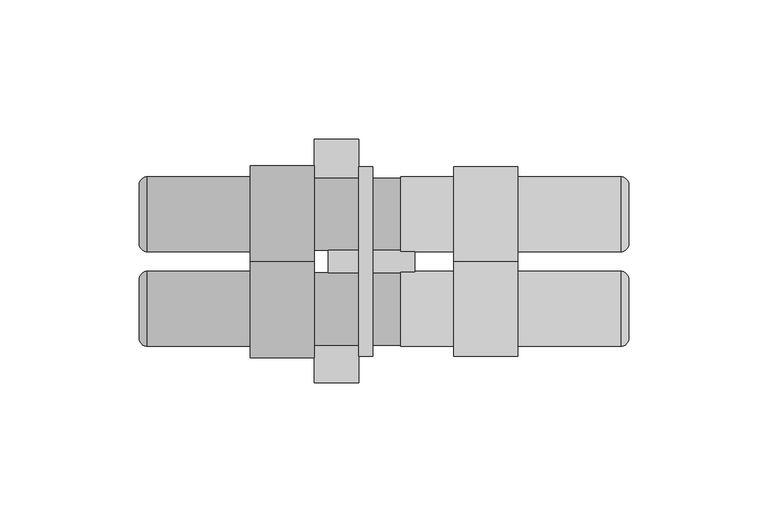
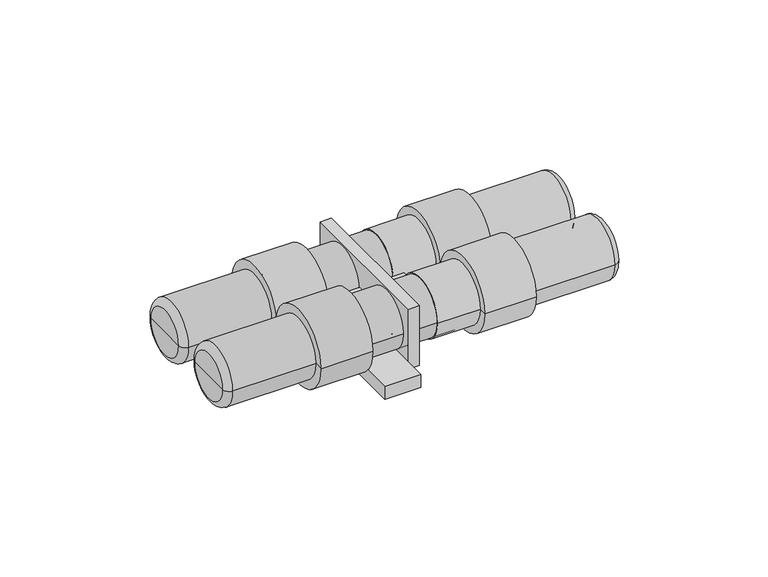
"""IFC4 building model written with IfcOpenShell, lengths in millimetres: cable carrier fitting geometry, DEVI EasyConnect EC-3 : DEVI EasyConnect EC-3_98300876."""

import ifcopenshell
import ifcopenshell.guid

model = None  # the IFC model being written
_history = None  # IfcOwnerHistory: only IFC2X3 demands one
_inside = {}  # id of a spatial element -> (the spatial element, [elements in it])
_under = {}  # id of a project, library or spatial element -> (it, [spatial elements below it])
_declared = {}  # id of a project -> (the project, [libraries it declares])
_typed = {}  # id of a type object -> (the type object, [elements of that type])
_made_of = {}  # id of a material, layer set ... -> (it, [elements and type objects made of it])


def new_model(schema):
    """Start an empty IFC model of exactly this schema.

    Asked for "IFC4X3", IfcOpenShell would pick the latest addendum, in which some entities
    have other attributes; the version numbers below select the first issue.
    IFC2X3 requires an IfcOwnerHistory on every rooted entity: one is made here for all.
    """
    global model, _history
    if schema == "IFC4X3":
        model = ifcopenshell.file(schema_version=(4, 3, 0, 0))
    else:
        model = ifcopenshell.file(schema=schema)
    _inside.clear()
    _under.clear()
    _declared.clear()
    _typed.clear()
    _made_of.clear()
    _history = None
    if model.schema == "IFC2X3":
        org = make("IfcOrganization", Name="unknown")
        user = make(
            "IfcPersonAndOrganization",
            ThePerson=make("IfcPerson", FamilyName="unknown"),
            TheOrganization=org,
        )
        app = make(
            "IfcApplication",
            ApplicationDeveloper=org,
            Version="unknown",
            ApplicationFullName="unknown",
            ApplicationIdentifier="unknown",
        )
        _history = make(
            "IfcOwnerHistory",
            OwningUser=user,
            OwningApplication=app,
            ChangeAction="ADDED",
            CreationDate=0,
        )
    return model


def make(cls, **values):
    """One entity of the class cls with the attributes given. An attribute that is None is left unset."""
    return model.create_entity(
        cls, **{name: value for name, value in values.items() if value is not None}
    )


def rooted(cls, **values):
    """An entity with a GlobalId (a new one), such as an element, a storey or a relation."""
    return make(cls, GlobalId=ifcopenshell.guid.new(), OwnerHistory=_history, **values)


def si_unit(unit_type, name, prefix=None):
    """IfcSIUnit, for example si_unit("LENGTHUNIT", "METRE", prefix="MILLI")."""
    return make("IfcSIUnit", UnitType=unit_type, Prefix=prefix, Name=name)


def assignment(units):
    """IfcUnitAssignment: the units of a project."""
    return None if units is None else make("IfcUnitAssignment", Units=units)


def point(xyz):
    """IfcCartesianPoint."""
    return None if xyz is None else make("IfcCartesianPoint", Coordinates=xyz)


def direction(xyz):
    """IfcDirection."""
    return None if xyz is None else make("IfcDirection", DirectionRatios=xyz)


def frame(location, z_axis=None, x_axis=None):
    """IfcAxis2Placement3D, a coordinate frame: its origin and axes. An axis left out is left unset."""
    return make(
        "IfcAxis2Placement3D",
        Location=point(location),
        Axis=direction(z_axis),
        RefDirection=direction(x_axis),
    )


def frame_2d(location, x_axis=None):
    """IfcAxis2Placement2D, a coordinate frame in the plane: its origin and x axis."""
    return make(
        "IfcAxis2Placement2D", Location=point(location), RefDirection=direction(x_axis)
    )


def origin():
    """The frame at (0, 0, 0) with its axes left unset."""
    return frame((0.0, 0.0, 0.0))


def place(relative_to, where):
    """IfcLocalPlacement: puts the frame where relative to a parent placement (None: the world)."""
    return make(
        "IfcLocalPlacement", PlacementRelTo=relative_to, RelativePlacement=where
    )


def context(
    kind, dimensions, precision=None, world=None, true_north=None, identifier=None
):
    """IfcGeometricRepresentationContext, for example the 3D "Model" context."""
    return make(
        "IfcGeometricRepresentationContext",
        ContextIdentifier=identifier,
        ContextType=kind,
        CoordinateSpaceDimension=dimensions,
        Precision=precision,
        WorldCoordinateSystem=world,
        TrueNorth=true_north,
    )


def project(units=None, contexts=None):
    """IfcProject with its units and contexts."""
    return rooted(
        "IfcProject",
        Name="project",
        RepresentationContexts=contexts,
        UnitsInContext=assignment(units),
    )


def spatial(cls, under=None, at=None, **own):
    """A site, building, storey or space (cls), placed at a placement, below another one or the project."""
    s = rooted(cls, ObjectPlacement=at, **own)
    if under is not None:
        _under.setdefault(under.id(), (under, []))[1].append(s)
    return s


def polyline(points):
    """IfcPolyline through the points."""
    return make("IfcPolyline", Points=[point(p) for p in points])


def circle_curve(where, radius):
    """IfcCircle in the frame where."""
    return make("IfcCircle", Position=where, Radius=radius)


def ellipse_curve(where, semi_axis1, semi_axis2):
    """IfcEllipse in the frame where."""
    return make(
        "IfcEllipse", Position=where, SemiAxis1=semi_axis1, SemiAxis2=semi_axis2
    )


def trimmed(basis, trim1, trim2, sense, master):
    """IfcTrimmedCurve: the piece of a basis curve between two trims."""
    return make(
        "IfcTrimmedCurve",
        BasisCurve=basis,
        Trim1=trim1,
        Trim2=trim2,
        SenseAgreement=sense,
        MasterRepresentation=master,
    )


def segment(curve, same_sense, transition):
    """IfcCompositeCurveSegment."""
    return make(
        "IfcCompositeCurveSegment",
        Transition=transition,
        SameSense=same_sense,
        ParentCurve=curve,
    )


def composite_curve(segments, self_intersect=None):
    """IfcCompositeCurve: segments joined end to end."""
    return make("IfcCompositeCurve", Segments=segments, SelfIntersect=self_intersect)


def outline(outer, holes=None, kind="AREA"):
    """IfcArbitraryClosedProfileDef: a profile drawn as a closed curve; with holes, ...WithVoids."""
    if holes is None:
        return make("IfcArbitraryClosedProfileDef", ProfileType=kind, OuterCurve=outer)
    return make(
        "IfcArbitraryProfileDefWithVoids",
        ProfileType=kind,
        OuterCurve=outer,
        InnerCurves=holes,
    )


def extrude(swept, where, along, depth):
    """IfcExtrudedAreaSolid: the profile swept, set in the frame where, extruded along a direction by depth."""
    return make(
        "IfcExtrudedAreaSolid",
        SweptArea=swept,
        Position=where,
        ExtrudedDirection=direction(along),
        Depth=depth,
    )


def shape(context_of_items, identifier, shape_type, items):
    """IfcShapeRepresentation: the items that make up one representation, for example the "Body"."""
    return make(
        "IfcShapeRepresentation",
        ContextOfItems=context_of_items,
        RepresentationIdentifier=identifier,
        RepresentationType=shape_type,
        Items=items,
    )


def source(mapping_origin, context_of_items, identifier, shape_type, items):
    """IfcRepresentationMap: a shape defined once, which mapped items show again and again."""
    return make(
        "IfcRepresentationMap",
        MappingOrigin=mapping_origin,
        MappedRepresentation=shape(context_of_items, identifier, shape_type, items),
    )


def transform(
    local_origin,
    x_axis=None,
    y_axis=None,
    z_axis=None,
    scale=None,
    scale2=None,
    scale3=None,
    uniform=True,
):
    """IfcCartesianTransformationOperator3D, or its non-uniform kind. x_axis, y_axis, z_axis: its Axis1, 2, 3."""
    if uniform:
        return make(
            "IfcCartesianTransformationOperator3D",
            Axis1=direction(x_axis),
            Axis2=direction(y_axis),
            LocalOrigin=point(local_origin),
            Scale=scale,
            Axis3=direction(z_axis),
        )
    return make(
        "IfcCartesianTransformationOperator3DnonUniform",
        Axis1=direction(x_axis),
        Axis2=direction(y_axis),
        LocalOrigin=point(local_origin),
        Scale=scale,
        Axis3=direction(z_axis),
        Scale2=scale2,
        Scale3=scale3,
    )


def mapped(mapping_source, mapping_target):
    """IfcMappedItem: shows the shape of a source again, moved by a transform."""
    return make(
        "IfcMappedItem", MappingSource=mapping_source, MappingTarget=mapping_target
    )


def made_of(thing, what):
    """Note that an element or type object is made of a material, layer set ...; save() writes the relation."""
    if what is not None:
        _made_of.setdefault(what.id(), (what, []))[1].append(thing)
    return thing


def element(
    cls,
    number,
    at=None,
    inside=None,
    cuts=None,
    type_object=None,
    material=None,
    context=None,
    identifier="Body",
    shape_type=None,
    held_by="IfcProductDefinitionShape",
    body=None,
    shapes=None,
    **own,
):
    """One element of the class cls, such as IfcWall. Its Tag is "e" and its number.

    at: its placement. inside: the storey or other place that contains it. cuts: it is an
    opening in that element (IfcRelVoidsElement). A single representation is given by context,
    identifier, shape_type and body (its items); several are given by shapes. held_by: the class
    of the entity that holds the representations. save() writes the other relations.
    """
    e = rooted(cls, Tag="e%d" % number, ObjectPlacement=at, **own)
    if body is not None:
        shapes = [shape(context, identifier, shape_type, body)]
    if shapes is not None:
        e.Representation = make(held_by, Representations=shapes)
    if inside is not None:
        _inside.setdefault(inside.id(), (inside, []))[1].append(e)
    if cuts is not None:
        rooted(
            "IfcRelVoidsElement", RelatingBuildingElement=cuts, RelatedOpeningElement=e
        )
    if type_object is not None:
        _typed.setdefault(type_object.id(), (type_object, []))[1].append(e)
    return made_of(e, material)


def aggregate(whole, parts):
    """IfcRelAggregates: a whole, such as a stair, and the parts it consists of."""
    return rooted("IfcRelAggregates", RelatingObject=whole, RelatedObjects=parts)


def save(model, path):
    """Write the relations noted so far, then the file.

    IfcRelAggregates (storeys below a building ...), IfcRelContainedInSpatialStructure (elements
    in a storey), IfcRelDefinesByType, IfcRelAssociatesMaterial and IfcRelDeclares: one each for
    every whole, place, type object, material and project.
    """
    for whole, parts in _under.values():
        aggregate(whole, parts)
    for where, things in _inside.values():
        rooted(
            "IfcRelContainedInSpatialStructure",
            RelatedElements=things,
            RelatingStructure=where,
        )
    for kind, things in _typed.values():
        rooted("IfcRelDefinesByType", RelatedObjects=things, RelatingType=kind)
    for what, things in _made_of.values():
        rooted("IfcRelAssociatesMaterial", RelatedObjects=things, RelatingMaterial=what)
    for by, libraries in _declared.values():
        rooted("IfcRelDeclares", RelatingContext=by, RelatedDefinitions=libraries)
    model.write(path)


def plane_surface(at):
    """IfcPlane: the flat surface through the origin of the frame at, square to its z axis."""
    return make("IfcPlane", Position=at)


def cylinder_surface(at, radius):
    """IfcCylindricalSurface: all points at the distance radius from the z axis of the frame at."""
    return make("IfcCylindricalSurface", Position=at, Radius=radius)


def revolved_surface(curve, axis_point, axis_direction):
    """IfcSurfaceOfRevolution: the curve turned about the line through axis_point along axis_direction."""
    return make(
        "IfcSurfaceOfRevolution",
        SweptCurve=make("IfcArbitraryOpenProfileDef", ProfileType="CURVE", Curve=curve),
        AxisPosition=make("IfcAxis1Placement", Location=point(axis_point), Axis=direction(axis_direction)),
    )


def advanced_brep(points, edges, surfaces, faces):
    """IfcAdvancedBrep: a solid bounded by faces that lie on surfaces and meet in shared edges.

    An edge is (start, end): straight between two places in points (the first is 0);
    or (start, end, curve); or (start, end, curve, False) where it runs against its curve.
    A face is (place in surfaces, loops), or (place, loops, False) where it looks against
    its surface's normal. A loop lists edges by number (the first is 1), with a minus sign
    where the edge is run from its end to its start. The first loop is the outer one.
    """
    corners = [point(p) for p in points]
    vertices = [make("IfcVertexPoint", VertexGeometry=c) for c in corners]
    made = []
    for start, end, *more in edges:
        made.append(
            make(
                "IfcEdgeCurve",
                EdgeStart=vertices[start],
                EdgeEnd=vertices[end],
                EdgeGeometry=more[0] if more else make("IfcPolyline", Points=[corners[start], corners[end]]),
                SameSense=more[1] if len(more) > 1 else True,
            )
        )
    hull = []
    for where, loops, *sense in faces:
        bounds = []
        for j, loop in enumerate(loops):
            ring = [make("IfcOrientedEdge", EdgeElement=made[abs(k) - 1], Orientation=k > 0) for k in loop]
            bounds.append(
                make(
                    "IfcFaceOuterBound" if j == 0 else "IfcFaceBound",
                    Bound=make("IfcEdgeLoop", EdgeList=ring),
                    Orientation=True,
                )
            )
        hull.append(make("IfcAdvancedFace", Bounds=bounds, FaceSurface=surfaces[where], SameSense=sense[0] if sense else True))
    return make("IfcAdvancedBrep", Outer=make("IfcClosedShell", CfsFaces=hull))


def cable_carrier_fitting_f990690f(model_context):
    return source(origin(), model_context, "Body", "SolidModel", [
        advanced_brep(
        [(63.0, -13.0, -0.0348156), (63.0, 13.0, -0.0348156), (63.0, 7.2677823, -10.8134677), (63.0, 27.0, -10.8134677), (63.0, 27.0, -16.9651844), (63.0, 0.0, -16.9651844), (63.0, 0.0, -13.0348156), (104.0, 13.0, -0.0348156), (104.0, -13.0, -0.0348156), (79.0, 0.0, -13.0348156), (79.0, 7.2677823, -10.8134677), (79.0, 27.0, -10.8134677), (79.0, 27.0, -16.9651844), (79.0, 0.0, -16.9651844)],
        [
            (0, 1, circle_curve(frame((63.0, 0.0, -0.0348156), z_axis=(-1.0, 0.0, 0.0), x_axis=(0.0, -1.0, 0.0)), 13.0)),
            (1, 2, circle_curve(frame((63.0, 0.0, -0.0348156), z_axis=(-1.0, 0.0, 0.0), x_axis=(0.0, -1.0, 0.0)), 13.0)),
            (2, 3),
            (3, 4),
            (4, 5),
            (5, 6),
            (6, 0, circle_curve(frame((63.0, 0.0, -0.0348156), z_axis=(-1.0, 0.0, 0.0), x_axis=(0.0, -1.0, 0.0)), 13.0)),
            (7, 8, circle_curve(frame((104.0, 0.0, -0.0348156), z_axis=(1.0, 0.0, 0.0), x_axis=(0.0, -1.0, 0.0)), 13.0)),
            (8, 7, circle_curve(frame((104.0, 0.0, -0.0348156), z_axis=(1.0, 0.0, 0.0), x_axis=(0.0, -1.0, 0.0)), 13.0)),
            (8, 0),
            (6, 9),
            (9, 10, circle_curve(frame((79.0, 0.0, -0.0348156), z_axis=(1.0, 0.0, 0.0), x_axis=(0.0, -1.0, 0.0)), 13.0)),
            (10, 2),
            (1, 7),
            (11, 3),
            (10, 11),
            (4, 12),
            (12, 13),
            (13, 5),
            (13, 9),
            (12, 11),
        ],
        [
            plane_surface(frame((63.0, -13.0, -0.0348156), z_axis=(-1.0, 0.0, 0.0), x_axis=(0.0, 0.0, 1.0))),
            plane_surface(frame((104.0, -13.0, -0.0348156), z_axis=(1.0, 0.0, 0.0), x_axis=(0.0, 0.0, -1.0))),
            cylinder_surface(frame((104.0, 0.0, -0.0348156), z_axis=(-1.0, 0.0, 0.0), x_axis=(0.0, -1.0, 0.0)), 13.0),
            plane_surface(frame((63.0, -287.6301247, -10.8134677), z_axis=(0.0, 0.0, 1.0), x_axis=(0.0, -1.0, 0.0))),
            plane_surface(frame((63.0, -287.6301247, -16.9651844), z_axis=(0.0, 0.0, -1.0), x_axis=(0.0, 1.0, 0.0))),
            plane_surface(frame((63.0, 0.0, -10.8134677), z_axis=(0.0, -1.0, 0.0), x_axis=(0.0, 0.0, -1.0))),
            plane_surface(frame((79.0, 0.0, -10.8134677), z_axis=(1.0, 0.0, 0.0), x_axis=(0.0, 0.0, -1.0))),
            plane_surface(frame((79.0, 27.0, -10.8134677), z_axis=(0.0, 1.0, 0.0), x_axis=(0.0, 0.0, -1.0))),
        ],
        [
            (0, [[1, 2, 3, 4, 5, 6, 7]]),
            (1, [[8, 9]]),
            (2, [[-9, 10, -7, 11, 12, 13, -2, 14]]),
            (2, [[-1, -10, -8, -14]]),
            (3, [[15, -3, -13, 16]]),
            (4, [[17, 18, 19, -5]]),
            (5, [[-19, 20, -11, -6]]),
            (6, [[-18, 21, -16, -12, -20]]),
            (7, [[-15, -21, -17, -4]]),
        ],
    ),
        advanced_brep(
        [(63.0, -47.0, -0.0348156), (63.0, -21.0, -0.0348156), (63.0, -34.0, -13.0348156), (63.0, -34.0, -16.9651844), (63.0, -60.5, -16.9651844), (63.0, -60.5, -10.8134677), (63.0, -41.2677823, -10.8134677), (104.0, -21.0, -0.0348156), (104.0, -47.0, -0.0348156), (79.0, -41.2677823, -10.8134677), (79.0, -34.0, -13.0348156), (79.0, -60.5, -10.8134677), (79.0, -34.0, -16.9651844), (79.0, -60.5, -16.9651844)],
        [
            (0, 1, circle_curve(frame((63.0, -34.0, -0.0348156), z_axis=(-1.0, 0.0, 0.0), x_axis=(0.0, -1.0, 0.0)), 13.0)),
            (1, 2, circle_curve(frame((63.0, -34.0, -0.0348156), z_axis=(-1.0, 0.0, 0.0), x_axis=(0.0, -1.0, 0.0)), 13.0)),
            (2, 3),
            (3, 4),
            (4, 5),
            (5, 6),
            (6, 0, circle_curve(frame((63.0, -34.0, -0.0348156), z_axis=(-1.0, 0.0, 0.0), x_axis=(0.0, -1.0, 0.0)), 13.0)),
            (7, 8, circle_curve(frame((104.0, -34.0, -0.0348156), z_axis=(1.0, 0.0, 0.0), x_axis=(0.0, -1.0, 0.0)), 13.0)),
            (8, 7, circle_curve(frame((104.0, -34.0, -0.0348156), z_axis=(1.0, 0.0, 0.0), x_axis=(0.0, -1.0, 0.0)), 13.0)),
            (8, 0),
            (6, 9),
            (9, 10, circle_curve(frame((79.0, -34.0, -0.0348156), z_axis=(1.0, 0.0, 0.0), x_axis=(0.0, -1.0, 0.0)), 13.0)),
            (10, 2),
            (1, 7),
            (5, 11),
            (11, 9),
            (3, 12),
            (12, 13),
            (13, 4),
            (13, 11),
            (12, 10),
        ],
        [
            plane_surface(frame((63.0, -13.0, -0.0348156), z_axis=(-1.0, 0.0, 0.0), x_axis=(0.0, 0.0, 1.0))),
            plane_surface(frame((104.0, -13.0, -0.0348156), z_axis=(1.0, 0.0, 0.0), x_axis=(0.0, 0.0, -1.0))),
            cylinder_surface(frame((119.0, -34.0, -0.0348156), z_axis=(-1.0, 0.0, 0.0), x_axis=(0.0, -1.0, 0.0)), 13.0),
            plane_surface(frame((63.0, -287.6301247, -10.8134677), z_axis=(0.0, 0.0, 1.0), x_axis=(0.0, -1.0, 0.0))),
            plane_surface(frame((63.0, -287.6301247, -16.9651844), z_axis=(0.0, 0.0, -1.0), x_axis=(0.0, 1.0, 0.0))),
            plane_surface(frame((63.0, -60.5, -10.8134677), z_axis=(0.0, -1.0, 0.0), x_axis=(0.0, 0.0, -1.0))),
            plane_surface(frame((79.0, -60.5, -10.8134677), z_axis=(1.0, 0.0, 0.0), x_axis=(0.0, 0.0, -1.0))),
            plane_surface(frame((79.0, -34.0, -10.8134677), z_axis=(0.0, 1.0, 0.0), x_axis=(0.0, 0.0, -1.0))),
        ],
        [
            (0, [[1, 2, 3, 4, 5, 6, 7]]),
            (1, [[8, 9]]),
            (2, [[-9, 10, -7, 11, 12, 13, -2, 14]]),
            (2, [[-1, -10, -8, -14]]),
            (3, [[15, 16, -11, -6]]),
            (4, [[17, 18, 19, -4]]),
            (5, [[-15, -5, -19, 20]]),
            (6, [[-18, 21, -12, -16, -20]]),
            (7, [[-17, -3, -13, -21]]),
        ],
    ),
        extrude(outline(polyline([(99.0, -34.0), (68.0, -34.0), (68.0, 0.0), (99.0, 0.0), (99.0, -34.0)])), frame((0.0, 0.0, -1.4303687), z_axis=(0.0, 0.0, 1.0), x_axis=(1.0, 0.0, 0.0)), (0.0, 0.0, 1.0), 2.8607374),
        extrude(outline(composite_curve([segment(trimmed(circle_curve(frame_2d((-34.0, -0.0348156)), 9.0), [point((-25.0, -0.0348156))], [point((-43.0, -0.0348156))], False, "CARTESIAN"), True, "CONTINUOUS"), segment(trimmed(circle_curve(frame_2d((-34.0, -0.0348156)), 9.0), [point((-43.0, -0.0348156))], [point((-25.0, -0.0348156))], False, "CARTESIAN"), True, "CONTINUOUS")], self_intersect=False)), frame((104.0, 0.0, 0.0), z_axis=(1.0, 0.0, 0.0), x_axis=(0.0, 1.0, 0.0)), (0.0, 0.0, 1.0), 15.0),
        extrude(outline(polyline([(79.0, -51.0), (79.0, 17.0), (84.0, 17.0), (84.0, -51.0), (79.0, -51.0)])), frame((0.0, 0.0, -14.0348156), z_axis=(0.0, 0.0, 1.0), x_axis=(1.0, 0.0, 0.0)), (0.0, 0.0, 1.0), 28.0696313),
        advanced_brep(
        [(94.0, -20.5, 0.0), (94.0, -47.5, 0.0), (94.0, -34.0, 0.0), (113.0, -20.5, 0.0), (113.0, -47.5, 0.0), (113.0, -17.0, 0.0), (113.0, -51.0, 0.0), (136.0, -17.0, 0.0), (136.0, -51.0, 0.0), (136.0, -20.5, 0.0), (136.0, -47.5, 0.0), (173.0, -20.5, 0.0), (173.0, -47.5, 0.0), (176.0, -34.0, 0.0), (176.0, -44.5, 0.0), (176.0, -23.5, 0.0)],
        [
            (0, 1, circle_curve(frame((94.0, -34.0, 0.0), z_axis=(-1.0, 0.0, 0.0), x_axis=(0.0, -1.0, 0.0)), 13.5)),
            (1, 2),
            (2, 0),
            (1, 0, circle_curve(frame((94.0, -34.0, 0.0), z_axis=(-1.0, 0.0, 0.0), x_axis=(0.0, -1.0, 0.0)), 13.5)),
            (3, 4, circle_curve(frame((113.0, -34.0, 0.0), z_axis=(-1.0, 0.0, 0.0), x_axis=(0.0, -1.0, 0.0)), 13.5)),
            (4, 1),
            (0, 3),
            (4, 3, circle_curve(frame((113.0, -34.0, 0.0), z_axis=(-1.0, 0.0, 0.0), x_axis=(0.0, -1.0, 0.0)), 13.5)),
            (5, 6, circle_curve(frame((113.0, -34.0, 0.0), z_axis=(-1.0, 0.0, 0.0), x_axis=(0.0, -1.0, 0.0)), 17.0)),
            (6, 4),
            (3, 5),
            (6, 5, circle_curve(frame((113.0, -34.0, 0.0), z_axis=(-1.0, 0.0, 0.0), x_axis=(0.0, -1.0, 0.0)), 17.0)),
            (7, 8, circle_curve(frame((136.0, -34.0, 0.0), z_axis=(-1.0, 0.0, 0.0), x_axis=(0.0, -1.0, 0.0)), 17.0)),
            (8, 6),
            (5, 7),
            (8, 7, circle_curve(frame((136.0, -34.0, 0.0), z_axis=(-1.0, 0.0, 0.0), x_axis=(0.0, -1.0, 0.0)), 17.0)),
            (9, 10, circle_curve(frame((136.0, -34.0, 0.0), z_axis=(-1.0, 0.0, 0.0), x_axis=(0.0, -1.0, 0.0)), 13.5)),
            (10, 8),
            (7, 9),
            (10, 9, circle_curve(frame((136.0, -34.0, 0.0), z_axis=(-1.0, 0.0, 0.0), x_axis=(0.0, -1.0, 0.0)), 13.5)),
            (11, 12, circle_curve(frame((173.0, -34.0, 0.0), z_axis=(-1.0, 0.0, 0.0), x_axis=(0.0, -1.0, 0.0)), 13.5)),
            (12, 10),
            (9, 11),
            (12, 11, circle_curve(frame((173.0, -34.0, 0.0), z_axis=(-1.0, 0.0, 0.0), x_axis=(0.0, -1.0, 0.0)), 13.5)),
            (13, 14),
            (14, 15, circle_curve(frame((176.0, -34.0, 0.0), z_axis=(1.0, 0.0, 0.0), x_axis=(0.0, -1.0, 0.0)), 10.5)),
            (15, 13),
            (15, 14, circle_curve(frame((176.0, -34.0, 0.0), z_axis=(1.0, 0.0, 0.0), x_axis=(0.0, -1.0, 0.0)), 10.5)),
            (14, 12, circle_curve(frame((173.0, -44.5, 0.0), z_axis=(0.0, 0.0, -1.0), x_axis=(-1.0, 0.0, 0.0)), 3.0)),
            (11, 15, circle_curve(frame((173.0, -23.5, 0.0), z_axis=(0.0, 0.0, -1.0), x_axis=(-1.0, 0.0, 0.0)), 3.0)),
        ],
        [
            plane_surface(frame((94.0, -34.0, 0.0), z_axis=(-1.0, 0.0, 0.0), x_axis=(0.0, -1.0, 0.0))),
            cylinder_surface(frame((201.0, -34.0, 0.0), z_axis=(1.0, 0.0, 0.0), x_axis=(0.0, -1.0, 0.0)), 13.5),
            plane_surface(frame((113.0, -34.0, 0.0), z_axis=(-1.0, 0.0, 0.0), x_axis=(0.0, -1.0, 0.0))),
            cylinder_surface(frame((201.0, -34.0, 0.0), z_axis=(1.0, 0.0, 0.0), x_axis=(0.0, -1.0, 0.0)), 17.0),
            plane_surface(frame((136.0, -34.0, 0.0), z_axis=(1.0, 0.0, 0.0), x_axis=(0.0, -1.0, 0.0))),
            plane_surface(frame((176.0, -34.0, 0.0), z_axis=(1.0, 0.0, 0.0), x_axis=(0.0, -1.0, 0.0))),
            revolved_surface(trimmed(ellipse_curve(frame((173.0, -44.5, 0.0), z_axis=(0.0, 0.0, 1.0), x_axis=(-1.0, 0.0, 0.0)), 3.0, 3.0), [point((173.0, -47.5, 0.0))], [point((176.0, -44.5, 0.0))], True, "CARTESIAN"), (201.0, -34.0, 0.0), (1.0, 0.0, 0.0)),
        ],
        [
            (0, [[1, 2, 3]]),
            (0, [[4, -3, -2]]),
            (1, [[5, 6, -1, 7]]),
            (1, [[8, -7, -4, -6]]),
            (2, [[9, 10, -5, 11]]),
            (2, [[12, -11, -8, -10]]),
            (3, [[13, 14, -9, 15]]),
            (3, [[16, -15, -12, -14]]),
            (4, [[17, 18, -13, 19]]),
            (4, [[20, -19, -16, -18]]),
            (1, [[21, 22, -17, 23]]),
            (1, [[24, -23, -20, -22]]),
            (5, [[25, 26, 27]]),
            (5, [[-27, 28, -25]]),
            (6, [[-26, 29, -21, 30]]),
            (6, [[-28, -30, -24, -29]]),
        ],
    ),
        advanced_brep(
        [(79.0, -41.0, 0.0), (79.0, -27.0, 0.0), (79.0, -34.0, 0.0), (63.0, -41.0, 0.0), (63.0, -27.0, 0.0), (63.0, -51.5, 0.0), (63.0, -16.5, 0.0), (40.0, -51.5, 0.0), (40.0, -16.5, 0.0), (40.0, -47.5, 0.0), (40.0, -20.5, 0.0), (3.0, -47.5, 0.0), (3.0, -20.5, 0.0), (0.0, -34.0, 0.0), (0.0, -23.5, 0.0), (0.0, -44.5, 0.0)],
        [
            (0, 1, circle_curve(frame((79.0, -34.0, 0.0), z_axis=(1.0, 0.0, 0.0), x_axis=(0.0, 1.0, 0.0)), 7.0)),
            (1, 2),
            (2, 0),
            (1, 0, circle_curve(frame((79.0, -34.0, 0.0), z_axis=(1.0, 0.0, 0.0), x_axis=(0.0, 1.0, 0.0)), 7.0)),
            (3, 4, circle_curve(frame((63.0, -34.0, 0.0), z_axis=(1.0, 0.0, 0.0), x_axis=(0.0, 1.0, 0.0)), 7.0)),
            (4, 1),
            (0, 3),
            (4, 3, circle_curve(frame((63.0, -34.0, 0.0), z_axis=(1.0, 0.0, 0.0), x_axis=(0.0, 1.0, 0.0)), 7.0)),
            (5, 6, circle_curve(frame((63.0, -34.0, 0.0), z_axis=(1.0, 0.0, 0.0), x_axis=(0.0, 1.0, 0.0)), 17.5)),
            (6, 4),
            (3, 5),
            (6, 5, circle_curve(frame((63.0, -34.0, 0.0), z_axis=(1.0, 0.0, 0.0), x_axis=(0.0, 1.0, 0.0)), 17.5)),
            (7, 8, circle_curve(frame((40.0, -34.0, 0.0), z_axis=(1.0, 0.0, 0.0), x_axis=(0.0, 1.0, 0.0)), 17.5)),
            (8, 6),
            (5, 7),
            (8, 7, circle_curve(frame((40.0, -34.0, 0.0), z_axis=(1.0, 0.0, 0.0), x_axis=(0.0, 1.0, 0.0)), 17.5)),
            (9, 10, circle_curve(frame((40.0, -34.0, 0.0), z_axis=(1.0, 0.0, 0.0), x_axis=(0.0, 1.0, 0.0)), 13.5)),
            (10, 8),
            (7, 9),
            (10, 9, circle_curve(frame((40.0, -34.0, 0.0), z_axis=(1.0, 0.0, 0.0), x_axis=(0.0, 1.0, 0.0)), 13.5)),
            (11, 12, circle_curve(frame((3.0, -34.0, 0.0), z_axis=(1.0, 0.0, 0.0), x_axis=(0.0, 1.0, 0.0)), 13.5)),
            (12, 10),
            (9, 11),
            (12, 11, circle_curve(frame((3.0, -34.0, 0.0), z_axis=(1.0, 0.0, 0.0), x_axis=(0.0, 1.0, 0.0)), 13.5)),
            (13, 14),
            (14, 15, circle_curve(frame((0.0, -34.0, 0.0), z_axis=(-1.0, 0.0, 0.0), x_axis=(0.0, 1.0, 0.0)), 10.5)),
            (15, 13),
            (15, 14, circle_curve(frame((0.0, -34.0, 0.0), z_axis=(-1.0, 0.0, 0.0), x_axis=(0.0, 1.0, 0.0)), 10.5)),
            (14, 12, circle_curve(frame((3.0, -23.5, 0.0), z_axis=(0.0, 0.0, -1.0), x_axis=(1.0, 0.0, 0.0)), 3.0)),
            (11, 15, circle_curve(frame((3.0, -44.5, 0.0), z_axis=(0.0, 0.0, -1.0), x_axis=(1.0, 0.0, 0.0)), 3.0)),
        ],
        [
            plane_surface(frame((79.0, -34.0, 0.0), z_axis=(1.0, 0.0, 0.0), x_axis=(0.0, 1.0, 0.0))),
            cylinder_surface(frame((-25.0, -34.0, 0.0), z_axis=(-1.0, 0.0, 0.0), x_axis=(0.0, 1.0, 0.0)), 7.0),
            plane_surface(frame((63.0, -34.0, 0.0), z_axis=(1.0, 0.0, 0.0), x_axis=(0.0, 1.0, 0.0))),
            cylinder_surface(frame((-25.0, -34.0, 0.0), z_axis=(-1.0, 0.0, 0.0), x_axis=(0.0, 1.0, 0.0)), 17.5),
            plane_surface(frame((40.0, -34.0, 0.0), z_axis=(-1.0, 0.0, 0.0), x_axis=(0.0, 1.0, 0.0))),
            cylinder_surface(frame((-25.0, -34.0, 0.0), z_axis=(-1.0, 0.0, 0.0), x_axis=(0.0, 1.0, 0.0)), 13.5),
            plane_surface(frame((0.0, -34.0, 0.0), z_axis=(-1.0, 0.0, 0.0), x_axis=(0.0, 1.0, 0.0))),
            revolved_surface(trimmed(ellipse_curve(frame((3.0, -23.5, 0.0), z_axis=(0.0, 0.0, 1.0), x_axis=(1.0, 0.0, 0.0)), 3.0, 3.0), [point((3.0, -20.5, 0.0))], [point((0.0, -23.5, 0.0))], True, "CARTESIAN"), (-25.0, -34.0, 0.0), (-1.0, 0.0, 0.0)),
        ],
        [
            (0, [[1, 2, 3]]),
            (0, [[4, -3, -2]]),
            (1, [[5, 6, -1, 7]]),
            (1, [[8, -7, -4, -6]]),
            (2, [[9, 10, -5, 11]]),
            (2, [[12, -11, -8, -10]]),
            (3, [[13, 14, -9, 15]]),
            (3, [[16, -15, -12, -14]]),
            (4, [[17, 18, -13, 19]]),
            (4, [[20, -19, -16, -18]]),
            (5, [[21, 22, -17, 23]]),
            (5, [[24, -23, -20, -22]]),
            (6, [[25, 26, 27]]),
            (6, [[-27, 28, -25]]),
            (7, [[-26, 29, -21, 30]]),
            (7, [[-28, -30, -24, -29]]),
        ],
    ),
        advanced_brep(
        [(94.0, 13.5, 0.0), (94.0, -13.5, 0.0), (94.0, 0.0, 0.0), (113.0, 13.5, 0.0), (113.0, -13.5, 0.0), (113.0, 17.0, 0.0), (113.0, -17.0, 0.0), (136.0, 17.0, 0.0), (136.0, -17.0, 0.0), (136.0, 13.5, 0.0), (136.0, -13.5, 0.0), (173.0, 13.5, 0.0), (173.0, -13.5, 0.0), (176.0, 0.0, 0.0), (176.0, -10.5, 0.0), (176.0, 10.5, 0.0)],
        [
            (0, 1, circle_curve(frame((94.0, 0.0, 0.0), z_axis=(-1.0, 0.0, 0.0), x_axis=(0.0, -1.0, 0.0)), 13.5)),
            (1, 2),
            (2, 0),
            (1, 0, circle_curve(frame((94.0, 0.0, 0.0), z_axis=(-1.0, 0.0, 0.0), x_axis=(0.0, -1.0, 0.0)), 13.5)),
            (3, 4, circle_curve(frame((113.0, 0.0, 0.0), z_axis=(-1.0, 0.0, 0.0), x_axis=(0.0, -1.0, 0.0)), 13.5)),
            (4, 1),
            (0, 3),
            (4, 3, circle_curve(frame((113.0, 0.0, 0.0), z_axis=(-1.0, 0.0, 0.0), x_axis=(0.0, -1.0, 0.0)), 13.5)),
            (5, 6, circle_curve(frame((113.0, 0.0, 0.0), z_axis=(-1.0, 0.0, 0.0), x_axis=(0.0, -1.0, 0.0)), 17.0)),
            (6, 4),
            (3, 5),
            (6, 5, circle_curve(frame((113.0, 0.0, 0.0), z_axis=(-1.0, 0.0, 0.0), x_axis=(0.0, -1.0, 0.0)), 17.0)),
            (7, 8, circle_curve(frame((136.0, 0.0, 0.0), z_axis=(-1.0, 0.0, 0.0), x_axis=(0.0, -1.0, 0.0)), 17.0)),
            (8, 6),
            (5, 7),
            (8, 7, circle_curve(frame((136.0, 0.0, 0.0), z_axis=(-1.0, 0.0, 0.0), x_axis=(0.0, -1.0, 0.0)), 17.0)),
            (9, 10, circle_curve(frame((136.0, 0.0, 0.0), z_axis=(-1.0, 0.0, 0.0), x_axis=(0.0, -1.0, 0.0)), 13.5)),
            (10, 8),
            (7, 9),
            (10, 9, circle_curve(frame((136.0, 0.0, 0.0), z_axis=(-1.0, 0.0, 0.0), x_axis=(0.0, -1.0, 0.0)), 13.5)),
            (11, 12, circle_curve(frame((173.0, 0.0, 0.0), z_axis=(-1.0, 0.0, 0.0), x_axis=(0.0, -1.0, 0.0)), 13.5)),
            (12, 10),
            (9, 11),
            (12, 11, circle_curve(frame((173.0, 0.0, 0.0), z_axis=(-1.0, 0.0, 0.0), x_axis=(0.0, -1.0, 0.0)), 13.5)),
            (13, 14),
            (14, 15, circle_curve(frame((176.0, 0.0, 0.0), z_axis=(1.0, 0.0, 0.0), x_axis=(0.0, -1.0, 0.0)), 10.5)),
            (15, 13),
            (15, 14, circle_curve(frame((176.0, 0.0, 0.0), z_axis=(1.0, 0.0, 0.0), x_axis=(0.0, -1.0, 0.0)), 10.5)),
            (14, 12, circle_curve(frame((173.0, -10.5, 0.0), z_axis=(0.0, 0.0, -1.0), x_axis=(-1.0, 0.0, 0.0)), 3.0)),
            (11, 15, circle_curve(frame((173.0, 10.5, 0.0), z_axis=(0.0, 0.0, -1.0), x_axis=(-1.0, 0.0, 0.0)), 3.0)),
        ],
        [
            plane_surface(frame((94.0, 0.0, 0.0), z_axis=(-1.0, 0.0, 0.0), x_axis=(0.0, -1.0, 0.0))),
            cylinder_surface(frame((201.0, 0.0, 0.0), z_axis=(1.0, 0.0, 0.0), x_axis=(0.0, -1.0, 0.0)), 13.5),
            plane_surface(frame((113.0, 0.0, 0.0), z_axis=(-1.0, 0.0, 0.0), x_axis=(0.0, -1.0, 0.0))),
            cylinder_surface(frame((201.0, 0.0, 0.0), z_axis=(1.0, 0.0, 0.0), x_axis=(0.0, -1.0, 0.0)), 17.0),
            plane_surface(frame((136.0, 0.0, 0.0), z_axis=(1.0, 0.0, 0.0), x_axis=(0.0, -1.0, 0.0))),
            plane_surface(frame((176.0, 0.0, 0.0), z_axis=(1.0, 0.0, 0.0), x_axis=(0.0, -1.0, 0.0))),
            revolved_surface(trimmed(ellipse_curve(frame((173.0, -10.5, 0.0), z_axis=(0.0, 0.0, 1.0), x_axis=(-1.0, 0.0, 0.0)), 3.0, 3.0), [point((173.0, -13.5, 0.0))], [point((176.0, -10.5, 0.0))], True, "CARTESIAN"), (201.0, 0.0, 0.0), (1.0, 0.0, 0.0)),
        ],
        [
            (0, [[1, 2, 3]]),
            (0, [[4, -3, -2]]),
            (1, [[5, 6, -1, 7]]),
            (1, [[8, -7, -4, -6]]),
            (2, [[9, 10, -5, 11]]),
            (2, [[12, -11, -8, -10]]),
            (3, [[13, 14, -9, 15]]),
            (3, [[16, -15, -12, -14]]),
            (4, [[17, 18, -13, 19]]),
            (4, [[20, -19, -16, -18]]),
            (1, [[21, 22, -17, 23]]),
            (1, [[24, -23, -20, -22]]),
            (5, [[25, 26, 27]]),
            (5, [[-27, 28, -25]]),
            (6, [[-26, 29, -21, 30]]),
            (6, [[-28, -30, -24, -29]]),
        ],
    ),
        advanced_brep(
        [(79.0, -7.0, 0.0), (79.0, 7.0, 0.0), (79.0, 0.0, 0.0), (63.0, -7.0, 0.0), (63.0, 7.0, 0.0), (63.0, -17.5, 0.0), (63.0, 17.5, 0.0), (40.0, -17.5, 0.0), (40.0, 17.5, 0.0), (40.0, -13.5, 0.0), (40.0, 13.5, 0.0), (3.0, -13.5, 0.0), (3.0, 13.5, 0.0), (0.0, 0.0, 0.0), (0.0, 10.5, 0.0), (0.0, -10.5, 0.0)],
        [
            (0, 1, circle_curve(frame((79.0, 0.0, 0.0), z_axis=(1.0, 0.0, 0.0), x_axis=(0.0, 1.0, 0.0)), 7.0)),
            (1, 2),
            (2, 0),
            (1, 0, circle_curve(frame((79.0, 0.0, 0.0), z_axis=(1.0, 0.0, 0.0), x_axis=(0.0, 1.0, 0.0)), 7.0)),
            (3, 4, circle_curve(frame((63.0, 0.0, 0.0), z_axis=(1.0, 0.0, 0.0), x_axis=(0.0, 1.0, 0.0)), 7.0)),
            (4, 1),
            (0, 3),
            (4, 3, circle_curve(frame((63.0, 0.0, 0.0), z_axis=(1.0, 0.0, 0.0), x_axis=(0.0, 1.0, 0.0)), 7.0)),
            (5, 6, circle_curve(frame((63.0, 0.0, 0.0), z_axis=(1.0, 0.0, 0.0), x_axis=(0.0, 1.0, 0.0)), 17.5)),
            (6, 4),
            (3, 5),
            (6, 5, circle_curve(frame((63.0, 0.0, 0.0), z_axis=(1.0, 0.0, 0.0), x_axis=(0.0, 1.0, 0.0)), 17.5)),
            (7, 8, circle_curve(frame((40.0, 0.0, 0.0), z_axis=(1.0, 0.0, 0.0), x_axis=(0.0, 1.0, 0.0)), 17.5)),
            (8, 6),
            (5, 7),
            (8, 7, circle_curve(frame((40.0, 0.0, 0.0), z_axis=(1.0, 0.0, 0.0), x_axis=(0.0, 1.0, 0.0)), 17.5)),
            (9, 10, circle_curve(frame((40.0, 0.0, 0.0), z_axis=(1.0, 0.0, 0.0), x_axis=(0.0, 1.0, 0.0)), 13.5)),
            (10, 8),
            (7, 9),
            (10, 9, circle_curve(frame((40.0, 0.0, 0.0), z_axis=(1.0, 0.0, 0.0), x_axis=(0.0, 1.0, 0.0)), 13.5)),
            (11, 12, circle_curve(frame((3.0, 0.0, 0.0), z_axis=(1.0, 0.0, 0.0), x_axis=(0.0, 1.0, 0.0)), 13.5)),
            (12, 10),
            (9, 11),
            (12, 11, circle_curve(frame((3.0, 0.0, 0.0), z_axis=(1.0, 0.0, 0.0), x_axis=(0.0, 1.0, 0.0)), 13.5)),
            (13, 14),
            (14, 15, circle_curve(frame((0.0, 0.0, 0.0), z_axis=(-1.0, 0.0, 0.0), x_axis=(0.0, 1.0, 0.0)), 10.5)),
            (15, 13),
            (15, 14, circle_curve(frame((0.0, 0.0, 0.0), z_axis=(-1.0, 0.0, 0.0), x_axis=(0.0, 1.0, 0.0)), 10.5)),
            (14, 12, circle_curve(frame((3.0, 10.5, 0.0), z_axis=(0.0, 0.0, -1.0), x_axis=(1.0, 0.0, 0.0)), 3.0)),
            (11, 15, circle_curve(frame((3.0, -10.5, 0.0), z_axis=(0.0, 0.0, -1.0), x_axis=(1.0, 0.0, 0.0)), 3.0)),
        ],
        [
            plane_surface(frame((79.0, 0.0, 0.0), z_axis=(1.0, 0.0, 0.0), x_axis=(0.0, 1.0, 0.0))),
            cylinder_surface(frame((-25.0, 0.0, 0.0), z_axis=(-1.0, 0.0, 0.0), x_axis=(0.0, 1.0, 0.0)), 7.0),
            plane_surface(frame((63.0, 0.0, 0.0), z_axis=(1.0, 0.0, 0.0), x_axis=(0.0, 1.0, 0.0))),
            cylinder_surface(frame((-25.0, 0.0, 0.0), z_axis=(-1.0, 0.0, 0.0), x_axis=(0.0, 1.0, 0.0)), 17.5),
            plane_surface(frame((40.0, 0.0, 0.0), z_axis=(-1.0, 0.0, 0.0), x_axis=(0.0, 1.0, 0.0))),
            cylinder_surface(frame((-25.0, 0.0, 0.0), z_axis=(-1.0, 0.0, 0.0), x_axis=(0.0, 1.0, 0.0)), 13.5),
            plane_surface(frame((0.0, 0.0, 0.0), z_axis=(-1.0, 0.0, 0.0), x_axis=(0.0, 1.0, 0.0))),
            revolved_surface(trimmed(ellipse_curve(frame((3.0, 10.5, 0.0), z_axis=(0.0, 0.0, 1.0), x_axis=(1.0, 0.0, 0.0)), 3.0, 3.0), [point((3.0, 13.5, 0.0))], [point((0.0, 10.5, 0.0))], True, "CARTESIAN"), (-25.0, 0.0, 0.0), (-1.0, 0.0, 0.0)),
        ],
        [
            (0, [[1, 2, 3]]),
            (0, [[4, -3, -2]]),
            (1, [[5, 6, -1, 7]]),
            (1, [[8, -7, -4, -6]]),
            (2, [[9, 10, -5, 11]]),
            (2, [[12, -11, -8, -10]]),
            (3, [[13, 14, -9, 15]]),
            (3, [[16, -15, -12, -14]]),
            (4, [[17, 18, -13, 19]]),
            (4, [[20, -19, -16, -18]]),
            (5, [[21, 22, -17, 23]]),
            (5, [[24, -23, -20, -22]]),
            (6, [[25, 26, 27]]),
            (6, [[-27, 28, -25]]),
            (7, [[-26, 29, -21, 30]]),
            (7, [[-28, -30, -24, -29]]),
        ],
    ),
    ])


if __name__ == "__main__":
    model = new_model("IFC4")
    model_context = context("Model", 3, world=origin())
    ifc_project = project(units=[si_unit("LENGTHUNIT", "METRE", prefix="MILLI")], contexts=[model_context])
    site = spatial("IfcSite", under=ifc_project)
    building = spatial("IfcBuilding", under=site)
    placement = place(None, origin())
    cable_carrier_fitting_shape = cable_carrier_fitting_f990690f(model_context)
    element("IfcCableCarrierFitting", 1, ObjectType="DEVI EasyConnect EC-3 : DEVI EasyConnect EC-3_98300876", at=placement, inside=building, context=model_context, shape_type="MappedRepresentation", body=[
        mapped(cable_carrier_fitting_shape, transform((0.0, 0.0, 0.0), x_axis=(1.0, 0.0, 0.0), y_axis=(0.0, 1.0, 0.0), z_axis=(0.0, 0.0, 1.0))),
    ])
    save(model, "model.ifc")
